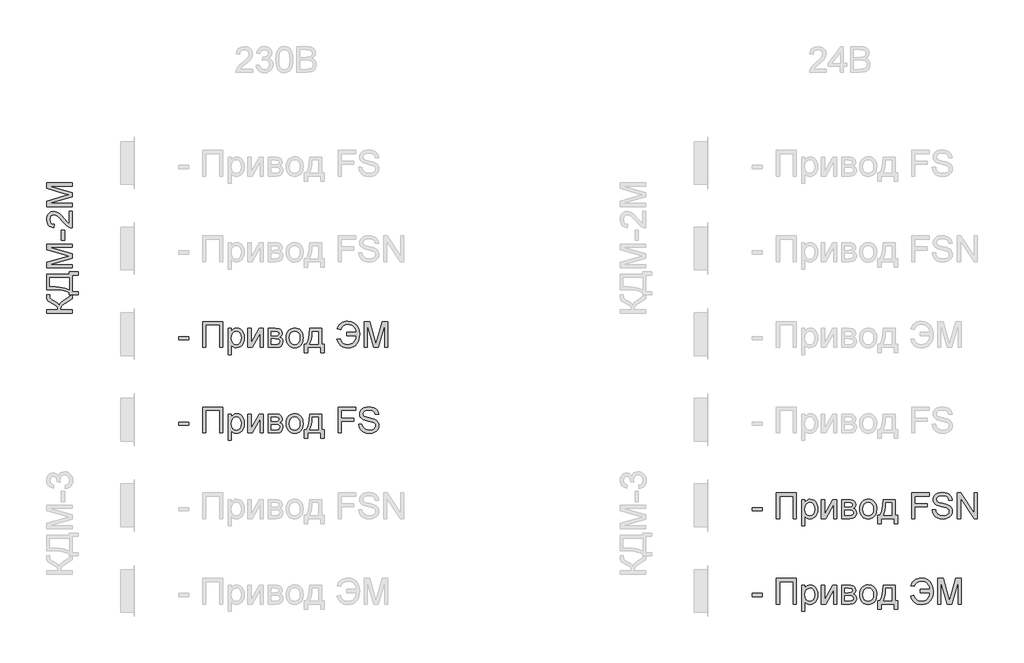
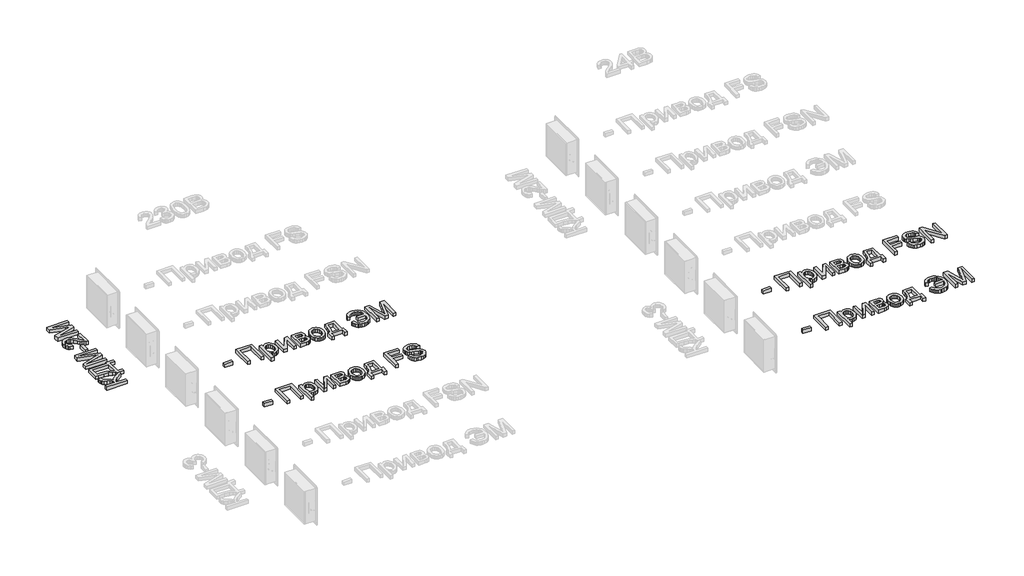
# One storey, part 19 of 23: 5 proxies.
"""IFC4 building model written with IfcOpenShell, lengths in millimetres."""

from ifc_helpers import new_model, si_unit, origin, origin_with_axes, place, context, project, spatial, polyline, outline, extrude, element, save

model = new_model("IFC4")

# Units and contexts
model_context = context("Model", 3, world=origin())
ifc_project = project(units=[si_unit("LENGTHUNIT", "METRE", prefix="MILLI")], contexts=[model_context])

# Site, building, storey
site = spatial("IfcSite", under=ifc_project)
building = spatial("IfcBuilding", under=site)
storey = spatial("IfcBuildingStorey", under=building, Name="Этаж 01", Elevation=0.0)

# Proxies
placement = place(None, origin())
element("IfcBuildingElementProxy", 1, Name="300 мм Arial", ObjectType="300 мм Arial", at=placement, inside=storey, context=model_context, shape_type="SweptSolid", body=[
    extrude(outline(polyline([(17804.7738082, -6434.3206311), (17804.7738082, -6396.6495148), (17922.4960467, -6396.6495148), (17922.4960467, -6434.3206311), (17804.7738082, -6434.3206311)])), origin_with_axes(), (0.0, 0.0, 1.0), 50.0),
    extrude(outline(polyline([(18087.3071805, -6222.4206019), (18322.7516574, -6222.4206019), (18322.7516574, -6523.7895324), (18285.0805411, -6523.7895324), (18285.0805411, -6260.0917182), (18124.9782968, -6260.0917182), (18124.9782968, -6523.7895324), (18087.3071805, -6523.7895324), (18087.3071805, -6222.4206019)])), origin_with_axes(), (0.0, 0.0, 1.0), 50.0),
    extrude(outline(polyline([(18383.9672214, -6608.5495441), (18383.9672214, -6302.4717241), (18421.6383378, -6302.4717241), (18421.6383378, -6339.4070764), (18433.9255964, -6321.1877206), (18447.684383, -6308.173895), (18463.724038, -6300.3655996), (18482.8539017, -6297.7628345), (18508.3297299, -6301.4048663), (18530.6049847, -6312.3309615), (18548.7415671, -6329.8789327), (18561.8013779, -6353.3865922), (18569.6924467, -6381.1432887), (18572.322803, -6411.438371), (18569.3521559, -6443.6556368), (18560.4402145, -6472.469994), (18545.8720875, -6496.4191119), (18525.9328834, -6514.0406595), (18502.7103324, -6524.8839813), (18478.292165, -6528.4984219), (18460.9741201, -6526.0795978), (18445.5138792, -6518.8231254), (18432.2793245, -6507.869439), (18421.6383378, -6494.3589728), (18421.6383378, -6608.5495441), (18383.9672214, -6608.5495441)]), holes=[polyline([(18421.6383378, -6414.8964618), (18425.7126308, -6448.668029), (18437.9355101, -6472.286053), (18455.970925, -6486.1919925), (18477.4828246, -6490.8273056), (18499.3442122, -6486.0264456), (18517.8394795, -6471.6238655), (18530.4486349, -6447.1413187), (18534.6516867, -6412.1005586), (18530.5498024, -6378.5129325), (18518.2441497, -6354.5638146), (18500.236326, -6340.2164168), (18479.027929, -6335.4339508), (18457.7367585, -6340.5199194), (18439.0391561, -6355.7778252), (18425.9885423, -6380.7294215), (18421.6383378, -6414.8964618)])]), origin_with_axes(), (0.0, 0.0, 1.0), 50.0),
    extrude(outline(polyline([(18614.7028088, -6302.4717241), (18652.3739251, -6302.4717241), (18652.3739251, -6471.2559835), (18744.9330351, -6302.4717241), (18793.6406113, -6302.4717241), (18793.6406113, -6523.7895324), (18755.969495, -6523.7895324), (18755.969495, -6356.0353426), (18663.9989962, -6523.7895324), (18614.7028088, -6523.7895324), (18614.7028088, -6302.4717241)])), origin_with_axes(), (0.0, 0.0, 1.0), 50.0),
    extrude(outline(polyline([(18850.1472857, -6302.4717241), (18933.1414638, -6302.4717241), (18959.8221055, -6303.7317199), (18978.6484666, -6307.5117074), (18992.4992238, -6314.6486181), (19004.2530535, -6325.9793836), (19012.2820781, -6340.7406486), (19014.9584196, -6358.1690581), (19013.3397388, -6372.2129533), (19008.4836965, -6384.325468), (19000.3718985, -6394.5617845), (18988.9859507, -6402.9770852), (19002.9286783, -6410.8037746), (19014.296232, -6423.3945359), (19021.856207, -6439.7560876), (19024.3761986, -6458.8951484), (19017.993446, -6487.6083381), (19002.8183137, -6507.8234538), (18978.7956194, -6519.7980127), (18945.8701809, -6523.7895324), (18850.1472857, -6523.7895324), (18850.1472857, -6302.4717241)]), holes=[polyline([(18887.818402, -6486.1184161), (18934.0243806, -6486.1184161), (18959.2059032, -6484.4169618), (18975.0064349, -6479.3125992), (18983.4861149, -6470.0327758), (18986.7050823, -6455.8049397), (18985.0955986, -6446.3779635), (18980.2671474, -6437.6683573), (18972.8543252, -6430.8533433), (18963.4917284, -6427.110144), (18930.3455607, -6424.9028521), (18887.818402, -6424.9028521), (18887.818402, -6486.1184161)]), polyline([(18887.818402, -6387.2317358), (18925.04806, -6387.2317358), (18955.7662065, -6385.3187494), (18970.7022156, -6377.6668039), (18975.6410313, -6371.3392336), (18977.2873033, -6363.8344409), (18974.3994296, -6352.5956459), (18965.7358086, -6345.3667647), (18950.0824297, -6341.4488215), (18926.2252823, -6340.1428404), (18887.818402, -6340.1428404), (18887.818402, -6387.2317358)])]), origin_with_axes(), (0.0, 0.0, 1.0), 50.0),
    extrude(outline(polyline([(19062.047315, -6413.1306282), (19064.0844615, -6384.4680223), (19070.1959011, -6359.7693448), (19080.3816339, -6339.0345959), (19094.6416597, -6322.2637754), (19108.9982546, -6311.5446138), (19124.8447715, -6303.8880698), (19142.1812106, -6299.2941433), (19161.0075717, -6297.7628345), (19181.7906051, -6299.6275364), (19200.5824773, -6305.221642), (19217.3831882, -6314.5451513), (19232.1927377, -6327.5980643), (19244.2799605, -6343.9389227), (19252.9136911, -6363.126268), (19258.0939294, -6385.1601003), (19259.8206756, -6410.0404195), (19256.767255, -6448.0978119), (19247.6069933, -6477.068519), (19232.606605, -6498.7643596), (19212.0328044, -6514.9971527), (19187.5962429, -6525.1231046), (19161.0075717, -6528.4984219), (19139.9210355, -6526.6406178), (19120.9544194, -6521.0672056), (19104.1077233, -6511.7781852), (19089.3809472, -6498.7735567), (19077.4224831, -6482.2740492), (19068.880723, -6462.500392), (19063.755667, -6439.452585), (19062.047315, -6413.1306282)]), holes=[polyline([(19099.7184313, -6413.0570518), (19104.0778329, -6447.1505157), (19117.1560378, -6471.4399245), (19136.8377246, -6485.9804603), (19161.0075717, -6490.8273056), (19185.0670541, -6485.9528692), (19204.7119527, -6471.3295599), (19217.7901576, -6446.7182544), (19222.1495593, -6411.8798294), (19217.7625665, -6378.7796469), (19204.6015881, -6354.821332), (19184.9290984, -6340.2807961), (19161.0075717, -6335.4339508), (19136.8377246, -6340.262402), (19117.1560378, -6354.7477556), (19104.0778329, -6378.981982), (19099.7184313, -6413.0570518)])]), origin_with_axes(), (0.0, 0.0, 1.0), 50.0),
    extrude(outline(polyline([(19335.1629082, -6302.4717241), (19476.4295943, -6302.4717241), (19476.4295943, -6486.1184161), (19504.6829316, -6486.1184161), (19504.6829316, -6585.0050964), (19467.0118152, -6585.0050964), (19467.0118152, -6523.7895324), (19311.6184605, -6523.7895324), (19311.6184605, -6585.0050964), (19273.9473442, -6585.0050964), (19273.9473442, -6486.1184161), (19297.4917919, -6486.1184161), (19314.6075017, -6455.1887373), (19326.5912577, -6414.2710624), (19333.4430598, -6363.3653913), (19335.1629082, -6302.4717241)]), holes=[polyline([(19368.1251349, -6340.1428404), (19365.0349262, -6386.2660455), (19359.2959671, -6425.9697099), (19350.9082576, -6459.2538334), (19339.8717977, -6486.1184161), (19438.758478, -6486.1184161), (19438.758478, -6340.1428404), (19368.1251349, -6340.1428404)])]), origin_with_axes(), (0.0, 0.0, 1.0), 50.0),
    extrude(outline(polyline([(19768.3807457, -6349.5606195), (19881.3940946, -6349.5606195), (19878.6947605, -6329.0121108), (19873.0983556, -6310.7030837), (19864.6048801, -6294.6335383), (19853.2143338, -6280.8034746), (19839.1520445, -6269.681942), (19822.64334, -6261.7379902), (19803.6882202, -6256.9716191), (19782.2866851, -6255.3828287), (19751.8674426, -6259.2088014), (19727.6378147, -6270.6867197), (19709.5978014, -6289.8165834), (19697.7474026, -6316.5983927), (19660.0762863, -6307.1806136), (19666.8637091, -6287.2873947), (19676.1895177, -6269.6934383), (19688.053712, -6254.3987444), (19702.4562922, -6241.4033129), (19719.0799598, -6231.0382377), (19737.6074168, -6223.6346125), (19758.0386631, -6219.1924374), (19780.3736987, -6217.7117124), (19821.4477235, -6223.1471689), (19856.3781189, -6239.4535383), (19884.1256184, -6264.2119966), (19903.6509553, -6295.0037196), (19915.211647, -6330.6054997), (19919.0652109, -6369.7941292), (19917.8925871, -6402.0136942), (19912.0938471, -6431.5707132), (19901.6689911, -6458.4651863), (19886.6180189, -6482.6971135), (19866.9777189, -6502.7351859), (19842.7848792, -6517.0480948), (19814.0394998, -6525.6358401), (19780.7415807, -6528.4984219), (19757.0545788, -6526.9533175), (19735.6576422, -6522.3180044), (19716.5507711, -6514.5924825), (19699.7339654, -6503.7767518), (19685.2072251, -6489.8708124), (19672.9705502, -6472.8746642), (19663.0239408, -6452.7883073), (19655.3673968, -6429.6117416), (19693.0385131, -6420.1939625), (19705.7672301, -6451.0960501), (19725.3385523, -6473.1689698), (19751.7524795, -6486.4127217), (19785.0090119, -6490.8273056), (19804.7182898, -6489.0936617), (19822.5697636, -6483.89273), (19838.5634333, -6475.2245105), (19852.699299, -6463.0890032), (19864.3979464, -6447.9460605), (19873.0799615, -6430.2555351), (19878.7453442, -6410.0174268), (19881.3940946, -6387.2317358), (19768.3807457, -6387.2317358), (19768.3807457, -6349.5606195)])), origin_with_axes(), (0.0, 0.0, 1.0), 50.0),
    extrude(outline(polyline([(19970.8629958, -6523.7895324), (19970.8629958, -6222.4206019), (20035.6838034, -6222.4206019), (20097.3408258, -6434.8356659), (20109.7752372, -6479.2022346), (20123.2397182, -6431.156846), (20183.866671, -6222.4206019), (20248.6874786, -6222.4206019), (20248.6874786, -6523.7895324), (20211.0163623, -6523.7895324), (20211.0163623, -6260.0917182), (20135.3062477, -6523.7895324), (20084.2442268, -6523.7895324), (20008.5341121, -6260.0917182), (20008.5341121, -6523.7895324), (19970.8629958, -6523.7895324)])), origin_with_axes(), (0.0, 0.0, 1.0), 50.0),
])
element("IfcBuildingElementProxy", 2, Name="300 мм Arial", ObjectType="300 мм Arial", at=placement, inside=storey, context=model_context, shape_type="SweptSolid", body=[
    extrude(outline(polyline([(17804.7738082, -7434.3206311), (17804.7738082, -7396.6495148), (17922.4960467, -7396.6495148), (17922.4960467, -7434.3206311), (17804.7738082, -7434.3206311)])), origin_with_axes(), (0.0, 0.0, 1.0), 50.0),
    extrude(outline(polyline([(18087.3071805, -7222.4206019), (18322.7516574, -7222.4206019), (18322.7516574, -7523.7895324), (18285.0805411, -7523.7895324), (18285.0805411, -7260.0917182), (18124.9782968, -7260.0917182), (18124.9782968, -7523.7895324), (18087.3071805, -7523.7895324), (18087.3071805, -7222.4206019)])), origin_with_axes(), (0.0, 0.0, 1.0), 50.0),
    extrude(outline(polyline([(18383.9672214, -7608.5495441), (18383.9672214, -7302.4717241), (18421.6383378, -7302.4717241), (18421.6383378, -7339.4070764), (18433.9255964, -7321.1877206), (18447.684383, -7308.173895), (18463.724038, -7300.3655996), (18482.8539017, -7297.7628345), (18508.3297299, -7301.4048663), (18530.6049847, -7312.3309615), (18548.7415671, -7329.8789327), (18561.8013779, -7353.3865922), (18569.6924467, -7381.1432887), (18572.322803, -7411.438371), (18569.3521559, -7443.6556368), (18560.4402145, -7472.469994), (18545.8720875, -7496.4191119), (18525.9328834, -7514.0406595), (18502.7103324, -7524.8839813), (18478.292165, -7528.4984219), (18460.9741201, -7526.0795978), (18445.5138792, -7518.8231254), (18432.2793245, -7507.869439), (18421.6383378, -7494.3589728), (18421.6383378, -7608.5495441), (18383.9672214, -7608.5495441)]), holes=[polyline([(18421.6383378, -7414.8964618), (18425.7126308, -7448.668029), (18437.9355101, -7472.286053), (18455.970925, -7486.1919925), (18477.4828246, -7490.8273056), (18499.3442122, -7486.0264456), (18517.8394795, -7471.6238655), (18530.4486349, -7447.1413187), (18534.6516867, -7412.1005586), (18530.5498024, -7378.5129325), (18518.2441497, -7354.5638146), (18500.236326, -7340.2164168), (18479.027929, -7335.4339508), (18457.7367585, -7340.5199194), (18439.0391561, -7355.7778252), (18425.9885423, -7380.7294215), (18421.6383378, -7414.8964618)])]), origin_with_axes(), (0.0, 0.0, 1.0), 50.0),
    extrude(outline(polyline([(18614.7028088, -7302.4717241), (18652.3739251, -7302.4717241), (18652.3739251, -7471.2559835), (18744.9330351, -7302.4717241), (18793.6406113, -7302.4717241), (18793.6406113, -7523.7895324), (18755.969495, -7523.7895324), (18755.969495, -7356.0353426), (18663.9989962, -7523.7895324), (18614.7028088, -7523.7895324), (18614.7028088, -7302.4717241)])), origin_with_axes(), (0.0, 0.0, 1.0), 50.0),
    extrude(outline(polyline([(18850.1472857, -7302.4717241), (18933.1414638, -7302.4717241), (18959.8221055, -7303.7317199), (18978.6484666, -7307.5117074), (18992.4992238, -7314.6486181), (19004.2530535, -7325.9793836), (19012.2820781, -7340.7406486), (19014.9584196, -7358.1690581), (19013.3397388, -7372.2129533), (19008.4836965, -7384.325468), (19000.3718985, -7394.5617845), (18988.9859507, -7402.9770852), (19002.9286783, -7410.8037746), (19014.296232, -7423.3945359), (19021.856207, -7439.7560876), (19024.3761986, -7458.8951484), (19017.993446, -7487.6083381), (19002.8183137, -7507.8234538), (18978.7956194, -7519.7980127), (18945.8701809, -7523.7895324), (18850.1472857, -7523.7895324), (18850.1472857, -7302.4717241)]), holes=[polyline([(18887.818402, -7486.1184161), (18934.0243806, -7486.1184161), (18959.2059032, -7484.4169618), (18975.0064349, -7479.3125992), (18983.4861149, -7470.0327758), (18986.7050823, -7455.8049397), (18985.0955986, -7446.3779635), (18980.2671474, -7437.6683573), (18972.8543252, -7430.8533433), (18963.4917284, -7427.110144), (18930.3455607, -7424.9028521), (18887.818402, -7424.9028521), (18887.818402, -7486.1184161)]), polyline([(18887.818402, -7387.2317358), (18925.04806, -7387.2317358), (18955.7662065, -7385.3187494), (18970.7022156, -7377.6668039), (18975.6410313, -7371.3392336), (18977.2873033, -7363.8344409), (18974.3994296, -7352.5956459), (18965.7358086, -7345.3667647), (18950.0824297, -7341.4488215), (18926.2252823, -7340.1428404), (18887.818402, -7340.1428404), (18887.818402, -7387.2317358)])]), origin_with_axes(), (0.0, 0.0, 1.0), 50.0),
    extrude(outline(polyline([(19062.047315, -7413.1306282), (19064.0844615, -7384.4680223), (19070.1959011, -7359.7693448), (19080.3816339, -7339.0345959), (19094.6416597, -7322.2637754), (19108.9982546, -7311.5446138), (19124.8447715, -7303.8880698), (19142.1812106, -7299.2941433), (19161.0075717, -7297.7628345), (19181.7906051, -7299.6275364), (19200.5824773, -7305.221642), (19217.3831882, -7314.5451513), (19232.1927377, -7327.5980643), (19244.2799605, -7343.9389227), (19252.9136911, -7363.126268), (19258.0939294, -7385.1601003), (19259.8206756, -7410.0404195), (19256.767255, -7448.0978119), (19247.6069933, -7477.068519), (19232.606605, -7498.7643596), (19212.0328044, -7514.9971527), (19187.5962429, -7525.1231046), (19161.0075717, -7528.4984219), (19139.9210355, -7526.6406178), (19120.9544194, -7521.0672056), (19104.1077233, -7511.7781852), (19089.3809472, -7498.7735567), (19077.4224831, -7482.2740492), (19068.880723, -7462.500392), (19063.755667, -7439.452585), (19062.047315, -7413.1306282)]), holes=[polyline([(19099.7184313, -7413.0570518), (19104.0778329, -7447.1505157), (19117.1560378, -7471.4399245), (19136.8377246, -7485.9804603), (19161.0075717, -7490.8273056), (19185.0670541, -7485.9528692), (19204.7119527, -7471.3295599), (19217.7901576, -7446.7182544), (19222.1495593, -7411.8798294), (19217.7625665, -7378.7796469), (19204.6015881, -7354.821332), (19184.9290984, -7340.2807961), (19161.0075717, -7335.4339508), (19136.8377246, -7340.262402), (19117.1560378, -7354.7477556), (19104.0778329, -7378.981982), (19099.7184313, -7413.0570518)])]), origin_with_axes(), (0.0, 0.0, 1.0), 50.0),
    extrude(outline(polyline([(19335.1629082, -7302.4717241), (19476.4295943, -7302.4717241), (19476.4295943, -7486.1184161), (19504.6829316, -7486.1184161), (19504.6829316, -7585.0050964), (19467.0118152, -7585.0050964), (19467.0118152, -7523.7895324), (19311.6184605, -7523.7895324), (19311.6184605, -7585.0050964), (19273.9473442, -7585.0050964), (19273.9473442, -7486.1184161), (19297.4917919, -7486.1184161), (19314.6075017, -7455.1887373), (19326.5912577, -7414.2710624), (19333.4430598, -7363.3653913), (19335.1629082, -7302.4717241)]), holes=[polyline([(19368.1251349, -7340.1428404), (19365.0349262, -7386.2660455), (19359.2959671, -7425.9697099), (19350.9082576, -7459.2538334), (19339.8717977, -7486.1184161), (19438.758478, -7486.1184161), (19438.758478, -7340.1428404), (19368.1251349, -7340.1428404)])]), origin_with_axes(), (0.0, 0.0, 1.0), 50.0),
    extrude(outline(polyline([(19669.4940654, -7523.7895324), (19669.4940654, -7222.4206019), (19871.9763155, -7222.4206019), (19871.9763155, -7260.0917182), (19707.1651817, -7260.0917182), (19707.1651817, -7349.5606195), (19848.4318678, -7349.5606195), (19848.4318678, -7387.2317358), (19707.1651817, -7387.2317358), (19707.1651817, -7523.7895324), (19669.4940654, -7523.7895324)])), origin_with_axes(), (0.0, 0.0, 1.0), 50.0),
    extrude(outline(polyline([(19909.6474318, -7420.1939625), (19947.3185481, -7420.1939625), (19951.6411616, -7441.0988569), (19959.458654, -7457.901867), (19971.6539421, -7471.2375894), (19989.1099428, -7481.7406203), (20010.4470985, -7488.5556343), (20034.2858518, -7490.8273056), (20055.2735196, -7489.1074573), (20073.6492253, -7483.9479123), (20088.539249, -7475.780932), (20099.0698712, -7465.0387777), (20105.3330621, -7452.7055339), (20107.4207924, -7439.7652847), (20105.857294, -7427.1561293), (20101.1667985, -7416.2576252), (20091.6386549, -7406.9594078), (20075.5622117, -7399.1511124), (20020.7110062, -7384.7669264), (19984.7045559, -7375.2479798), (19961.665946, -7366.1888856), (19942.9131613, -7353.5153509), (19929.6234242, -7338.1562776), (19921.7047642, -7320.4427595), (19919.0652109, -7300.7058905), (19922.3301636, -7278.6421678), (19932.1250217, -7258.0683673), (19948.1922679, -7240.6307607), (19970.2743846, -7227.97562), (19996.7802824, -7220.2776893), (20026.1188715, -7217.7117124), (20057.9038759, -7220.3972509), (20085.7157547, -7228.4538666), (20108.5612266, -7241.7160126), (20125.4470102, -7260.0181418), (20136.1339822, -7282.2198202), (20140.3830192, -7307.1806136), (20102.7119029, -7307.1806136), (20095.7957214, -7284.7030237), (20081.3747472, -7268.4794277), (20058.841975, -7258.6569784), (20027.5903995, -7255.3828287), (19995.60306, -7258.6201902), (19973.658899, -7268.3322749), (19960.9669702, -7282.6244904), (19956.7363272, -7299.6022445), (19959.7345655, -7314.078401), (19968.7292803, -7325.7218662), (19989.9928596, -7336.1329266), (20030.2391499, -7346.7647163), (20071.7730271, -7356.8630771), (20096.8993674, -7365.6738508), (20118.3744789, -7379.340667), (20133.3564731, -7396.2080564), (20142.1580498, -7416.0920783), (20145.0919088, -7438.8087915), (20141.7165914, -7462.0313424), (20131.5906395, -7483.8743359), (20115.1279202, -7502.6731058), (20092.7423008, -7516.7629863), (20065.8225358, -7525.564563), (20035.7573798, -7528.4984219), (19998.8496186, -7525.3346367), (19968.4717629, -7515.8432813), (19944.2743246, -7499.9875673), (19925.907816, -7477.7307066), (19914.1171981, -7450.6178035), (19909.6474318, -7420.1939625)])), origin_with_axes(), (0.0, 0.0, 1.0), 50.0),
])
element("IfcBuildingElementProxy", 3, Name="300 мм Arial", ObjectType="300 мм Arial", at=placement, inside=storey, context=model_context, shape_type="SweptSolid", body=[
    extrude(outline(polyline([(16262.355345, -6122.4984014), (16262.355345, -6084.8272851), (16394.2042521, -6084.8272851), (16391.7118516, -6059.3238658), (16384.23465, -6042.7047967), (16366.6406936, -6029.2679068), (16333.7980285, -6013.3110252), (16291.6755401, -5992.5256925), (16280.2620012, -5982.5009082), (16270.8166309, -5968.9812448), (16264.4706665, -5952.9323928), (16262.355345, -5935.3200423), (16262.7968034, -5910.5983722), (16300.4679197, -5910.5983722), (16300.2471905, -5918.9125053), (16300.0264613, -5927.2266384), (16302.2889356, -5944.4803039), (16309.0763584, -5956.657198), (16323.3317857, -5967.1418349), (16347.8511207, -5979.0244233), (16378.3853263, -5993.6017474), (16395.0871689, -6005.6958679), (16410.6853655, -6031.705125), (16416.8933742, -6017.1140054), (16427.7183019, -6002.6240533), (16463.2189144, -5973.9476518), (16563.7242755, -5910.5983722), (16563.7242755, -5954.3027532), (16478.817111, -6007.8663717), (16451.5846463, -6028.5505369), (16434.4873306, -6045.5742762), (16425.4650246, -6062.9842916), (16422.4575893, -6084.8272851), (16563.7242755, -6084.8272851), (16563.7242755, -6122.4984014), (16262.355345, -6122.4984014)])), origin_with_axes(), (0.0, 0.0, 1.0), 50.0),
    extrude(outline(polyline([(16262.355345, -5849.3828082), (16262.355345, -5670.4450057), (16526.0531592, -5670.4450057), (16526.0531592, -5642.1916685), (16634.3576186, -5642.1916685), (16634.3576186, -5679.8627848), (16563.7242755, -5679.8627848), (16563.7242755, -5872.9272559), (16634.3576186, -5872.9272559), (16634.3576186, -5910.5983722), (16563.7242755, -5910.5983722), (16526.0531592, -5910.5983722), (16526.0531592, -5887.0539245), (16491.8815204, -5870.5728111), (16443.8131392, -5858.8005873), (16381.8480156, -5851.737253), (16305.9861497, -5849.3828082), (16262.355345, -5849.3828082)]), holes=[polyline([(16300.0264613, -5708.116122), (16300.0264613, -5811.7116919), (16315.1831995, -5811.7116919), (16418.4108874, -5819.3636374), (16478.0629529, -5830.6944028), (16526.0531592, -5849.3828082), (16526.0531592, -5708.116122), (16300.0264613, -5708.116122)])]), origin_with_axes(), (0.0, 0.0, 1.0), 50.0),
    extrude(outline(polyline([(16563.7242755, -5595.1027731), (16262.355345, -5595.1027731), (16262.355345, -5530.2819656), (16474.7704091, -5468.6249432), (16519.1369777, -5456.1905318), (16471.0915891, -5442.7260507), (16262.355345, -5382.0990979), (16262.355345, -5317.2782904), (16563.7242755, -5317.2782904), (16563.7242755, -5354.9494067), (16300.0264613, -5354.9494067), (16563.7242755, -5430.6595213), (16563.7242755, -5481.7215422), (16300.0264613, -5557.4316568), (16563.7242755, -5557.4316568), (16563.7242755, -5595.1027731)])), origin_with_axes(), (0.0, 0.0, 1.0), 50.0),
    extrude(outline(polyline([(16474.2553743, -5274.8982845), (16436.584258, -5274.8982845), (16436.584258, -5157.1760461), (16474.2553743, -5157.1760461), (16474.2553743, -5274.8982845)])), origin_with_axes(), (0.0, 0.0, 1.0), 50.0),
    extrude(outline(polyline([(16526.0531592, -4931.1493482), (16563.7242755, -4931.1493482), (16563.7242755, -5128.9227088), (16537.7518066, -5124.8760069), (16517.4539175, -5115.5869865), (16497.7630338, -5101.9937468), (16477.152445, -5082.3304542), (16454.0954409, -5054.831275), (16417.9878231, -5014.1803145), (16391.3347725, -4989.7897383), (16369.7033112, -4977.5944501), (16348.6604611, -4973.5293541), (16329.7973118, -4977.3645239), (16314.1163418, -4988.8700333), (16303.5489314, -5006.5559602), (16300.0264613, -5028.9323826), (16303.466158, -5052.430845), (16313.785248, -5070.686989), (16330.1743908, -5082.4684099), (16351.8242463, -5086.542703), (16347.1153567, -5124.2138193), (16310.6766451, -5115.0811488), (16296.1407078, -5106.5347902), (16284.0603828, -5095.3350827), (16274.5644288, -5081.7395437), (16267.7816045, -5066.0056906), (16262.355345, -5028.1230422), (16263.8636612, -5007.9332184), (16268.3886098, -4989.9644822), (16275.9301907, -4974.2168336), (16286.4884039, -4960.6902724), (16299.2815003, -4949.8262573), (16313.5277306, -4942.0662464), (16329.2270947, -4937.4102399), (16346.3795927, -4935.8582378), (16364.3966134, -4937.5321009), (16382.1009345, -4942.5536901), (16400.1087581, -4951.4656314), (16419.0362868, -4964.8105508), (16441.6334383, -4986.0833272), (16470.6501307, -5018.7788395), (16506.8865072, -5062.1153385), (16526.0531592, -5079.1114867), (16526.0531592, -4931.1493482)])), origin_with_axes(), (0.0, 0.0, 1.0), 50.0),
    extrude(outline(polyline([(16563.7242755, -4879.3515633), (16262.355345, -4879.3515633), (16262.355345, -4814.5307558), (16474.7704091, -4752.8737334), (16519.1369777, -4740.4393219), (16471.0915891, -4726.9748409), (16262.355345, -4666.3478881), (16262.355345, -4601.5270806), (16563.7242755, -4601.5270806), (16563.7242755, -4639.1981969), (16300.0264613, -4639.1981969), (16563.7242755, -4714.9083115), (16563.7242755, -4765.9703324), (16300.0264613, -4841.680447), (16563.7242755, -4841.680447), (16563.7242755, -4879.3515633)])), origin_with_axes(), (0.0, 0.0, 1.0), 50.0),
])
element("IfcBuildingElementProxy", 4, Name="300 мм Arial", ObjectType="300 мм Arial", at=placement, inside=storey, context=model_context, shape_type="SweptSolid", body=[
    extrude(outline(polyline([(24504.7738082, -8434.3206311), (24504.7738082, -8396.6495148), (24622.4960467, -8396.6495148), (24622.4960467, -8434.3206311), (24504.7738082, -8434.3206311)])), origin_with_axes(), (0.0, 0.0, 1.0), 50.0),
    extrude(outline(polyline([(24787.3071805, -8222.4206019), (25022.7516574, -8222.4206019), (25022.7516574, -8523.7895324), (24985.0805411, -8523.7895324), (24985.0805411, -8260.0917182), (24824.9782968, -8260.0917182), (24824.9782968, -8523.7895324), (24787.3071805, -8523.7895324), (24787.3071805, -8222.4206019)])), origin_with_axes(), (0.0, 0.0, 1.0), 50.0),
    extrude(outline(polyline([(25083.9672214, -8608.5495441), (25083.9672214, -8302.4717241), (25121.6383378, -8302.4717241), (25121.6383378, -8339.4070764), (25133.9255964, -8321.1877206), (25147.684383, -8308.173895), (25163.724038, -8300.3655996), (25182.8539017, -8297.7628345), (25208.3297299, -8301.4048663), (25230.6049847, -8312.3309615), (25248.7415671, -8329.8789327), (25261.8013779, -8353.3865922), (25269.6924467, -8381.1432887), (25272.322803, -8411.438371), (25269.3521559, -8443.6556368), (25260.4402145, -8472.469994), (25245.8720875, -8496.4191119), (25225.9328834, -8514.0406595), (25202.7103324, -8524.8839813), (25178.292165, -8528.4984219), (25160.9741201, -8526.0795978), (25145.5138792, -8518.8231254), (25132.2793245, -8507.869439), (25121.6383378, -8494.3589728), (25121.6383378, -8608.5495441), (25083.9672214, -8608.5495441)]), holes=[polyline([(25121.6383378, -8414.8964618), (25125.7126308, -8448.668029), (25137.9355101, -8472.286053), (25155.970925, -8486.1919925), (25177.4828246, -8490.8273056), (25199.3442122, -8486.0264456), (25217.8394795, -8471.6238655), (25230.4486349, -8447.1413187), (25234.6516867, -8412.1005586), (25230.5498024, -8378.5129325), (25218.2441497, -8354.5638146), (25200.236326, -8340.2164168), (25179.027929, -8335.4339508), (25157.7367585, -8340.5199194), (25139.0391561, -8355.7778252), (25125.9885423, -8380.7294215), (25121.6383378, -8414.8964618)])]), origin_with_axes(), (0.0, 0.0, 1.0), 50.0),
    extrude(outline(polyline([(25314.7028088, -8302.4717241), (25352.3739251, -8302.4717241), (25352.3739251, -8471.2559835), (25444.9330351, -8302.4717241), (25493.6406113, -8302.4717241), (25493.6406113, -8523.7895324), (25455.969495, -8523.7895324), (25455.969495, -8356.0353426), (25363.9989962, -8523.7895324), (25314.7028088, -8523.7895324), (25314.7028088, -8302.4717241)])), origin_with_axes(), (0.0, 0.0, 1.0), 50.0),
    extrude(outline(polyline([(25550.1472857, -8302.4717241), (25633.1414638, -8302.4717241), (25659.8221055, -8303.7317199), (25678.6484666, -8307.5117074), (25692.4992238, -8314.6486181), (25704.2530535, -8325.9793836), (25712.2820781, -8340.7406486), (25714.9584196, -8358.1690581), (25713.3397388, -8372.2129533), (25708.4836965, -8384.325468), (25700.3718985, -8394.5617845), (25688.9859507, -8402.9770852), (25702.9286783, -8410.8037746), (25714.296232, -8423.3945359), (25721.856207, -8439.7560876), (25724.3761986, -8458.8951484), (25717.993446, -8487.6083381), (25702.8183137, -8507.8234538), (25678.7956194, -8519.7980127), (25645.8701809, -8523.7895324), (25550.1472857, -8523.7895324), (25550.1472857, -8302.4717241)]), holes=[polyline([(25587.818402, -8486.1184161), (25634.0243806, -8486.1184161), (25659.2059032, -8484.4169618), (25675.0064349, -8479.3125992), (25683.4861149, -8470.0327758), (25686.7050823, -8455.8049397), (25685.0955986, -8446.3779635), (25680.2671474, -8437.6683573), (25672.8543252, -8430.8533433), (25663.4917284, -8427.110144), (25630.3455607, -8424.9028521), (25587.818402, -8424.9028521), (25587.818402, -8486.1184161)]), polyline([(25587.818402, -8387.2317358), (25625.04806, -8387.2317358), (25655.7662065, -8385.3187494), (25670.7022156, -8377.6668039), (25675.6410313, -8371.3392336), (25677.2873033, -8363.8344409), (25674.3994296, -8352.5956459), (25665.7358086, -8345.3667647), (25650.0824297, -8341.4488215), (25626.2252823, -8340.1428404), (25587.818402, -8340.1428404), (25587.818402, -8387.2317358)])]), origin_with_axes(), (0.0, 0.0, 1.0), 50.0),
    extrude(outline(polyline([(25762.047315, -8413.1306282), (25764.0844615, -8384.4680223), (25770.1959011, -8359.7693448), (25780.3816339, -8339.0345959), (25794.6416597, -8322.2637754), (25808.9982546, -8311.5446138), (25824.8447715, -8303.8880698), (25842.1812106, -8299.2941433), (25861.0075717, -8297.7628345), (25881.7906051, -8299.6275364), (25900.5824773, -8305.221642), (25917.3831882, -8314.5451513), (25932.1927377, -8327.5980643), (25944.2799605, -8343.9389227), (25952.9136911, -8363.126268), (25958.0939294, -8385.1601003), (25959.8206756, -8410.0404195), (25956.767255, -8448.0978119), (25947.6069933, -8477.068519), (25932.606605, -8498.7643596), (25912.0328044, -8514.9971527), (25887.5962429, -8525.1231046), (25861.0075717, -8528.4984219), (25839.9210355, -8526.6406178), (25820.9544194, -8521.0672056), (25804.1077233, -8511.7781852), (25789.3809472, -8498.7735567), (25777.4224831, -8482.2740492), (25768.880723, -8462.500392), (25763.755667, -8439.452585), (25762.047315, -8413.1306282)]), holes=[polyline([(25799.7184313, -8413.0570518), (25804.0778329, -8447.1505157), (25817.1560378, -8471.4399245), (25836.8377246, -8485.9804603), (25861.0075717, -8490.8273056), (25885.0670541, -8485.9528692), (25904.7119527, -8471.3295599), (25917.7901576, -8446.7182544), (25922.1495593, -8411.8798294), (25917.7625665, -8378.7796469), (25904.6015881, -8354.821332), (25884.9290984, -8340.2807961), (25861.0075717, -8335.4339508), (25836.8377246, -8340.262402), (25817.1560378, -8354.7477556), (25804.0778329, -8378.981982), (25799.7184313, -8413.0570518)])]), origin_with_axes(), (0.0, 0.0, 1.0), 50.0),
    extrude(outline(polyline([(26035.1629082, -8302.4717241), (26176.4295943, -8302.4717241), (26176.4295943, -8486.1184161), (26204.6829316, -8486.1184161), (26204.6829316, -8585.0050964), (26167.0118152, -8585.0050964), (26167.0118152, -8523.7895324), (26011.6184605, -8523.7895324), (26011.6184605, -8585.0050964), (25973.9473442, -8585.0050964), (25973.9473442, -8486.1184161), (25997.4917919, -8486.1184161), (26014.6075017, -8455.1887373), (26026.5912577, -8414.2710624), (26033.4430598, -8363.3653913), (26035.1629082, -8302.4717241)]), holes=[polyline([(26068.1251349, -8340.1428404), (26065.0349262, -8386.2660455), (26059.2959671, -8425.9697099), (26050.9082576, -8459.2538334), (26039.8717977, -8486.1184161), (26138.758478, -8486.1184161), (26138.758478, -8340.1428404), (26068.1251349, -8340.1428404)])]), origin_with_axes(), (0.0, 0.0, 1.0), 50.0),
    extrude(outline(polyline([(26369.4940654, -8523.7895324), (26369.4940654, -8222.4206019), (26571.9763155, -8222.4206019), (26571.9763155, -8260.0917182), (26407.1651817, -8260.0917182), (26407.1651817, -8349.5606195), (26548.4318678, -8349.5606195), (26548.4318678, -8387.2317358), (26407.1651817, -8387.2317358), (26407.1651817, -8523.7895324), (26369.4940654, -8523.7895324)])), origin_with_axes(), (0.0, 0.0, 1.0), 50.0),
    extrude(outline(polyline([(26609.6474318, -8420.1939625), (26647.3185481, -8420.1939625), (26651.6411616, -8441.0988569), (26659.458654, -8457.901867), (26671.6539421, -8471.2375894), (26689.1099428, -8481.7406203), (26710.4470985, -8488.5556343), (26734.2858518, -8490.8273056), (26755.2735196, -8489.1074573), (26773.6492253, -8483.9479123), (26788.539249, -8475.780932), (26799.0698712, -8465.0387777), (26805.3330621, -8452.7055339), (26807.4207924, -8439.7652847), (26805.857294, -8427.1561293), (26801.1667985, -8416.2576252), (26791.6386549, -8406.9594078), (26775.5622117, -8399.1511124), (26720.7110062, -8384.7669264), (26684.7045559, -8375.2479798), (26661.665946, -8366.1888856), (26642.9131613, -8353.5153509), (26629.6234242, -8338.1562776), (26621.7047642, -8320.4427595), (26619.0652109, -8300.7058905), (26622.3301636, -8278.6421678), (26632.1250217, -8258.0683673), (26648.1922679, -8240.6307607), (26670.2743846, -8227.97562), (26696.7802824, -8220.2776893), (26726.1188715, -8217.7117124), (26757.9038759, -8220.3972509), (26785.7157547, -8228.4538666), (26808.5612266, -8241.7160126), (26825.4470102, -8260.0181418), (26836.1339822, -8282.2198202), (26840.3830192, -8307.1806136), (26802.7119029, -8307.1806136), (26795.7957214, -8284.7030237), (26781.3747472, -8268.4794277), (26758.841975, -8258.6569784), (26727.5903995, -8255.3828287), (26695.60306, -8258.6201902), (26673.658899, -8268.3322749), (26660.9669702, -8282.6244904), (26656.7363272, -8299.6022445), (26659.7345655, -8314.078401), (26668.7292803, -8325.7218662), (26689.9928596, -8336.1329266), (26730.2391499, -8346.7647163), (26771.7730271, -8356.8630771), (26796.8993674, -8365.6738508), (26818.3744789, -8379.340667), (26833.3564731, -8396.2080564), (26842.1580498, -8416.0920783), (26845.0919088, -8438.8087915), (26841.7165914, -8462.0313424), (26831.5906395, -8483.8743359), (26815.1279202, -8502.6731058), (26792.7423008, -8516.7629863), (26765.8225358, -8525.564563), (26735.7573798, -8528.4984219), (26698.8496186, -8525.3346367), (26668.4717629, -8515.8432813), (26644.2743246, -8499.9875673), (26625.907816, -8477.7307066), (26614.1171981, -8450.6178035), (26609.6474318, -8420.1939625)])), origin_with_axes(), (0.0, 0.0, 1.0), 50.0),
    extrude(outline(polyline([(26901.5985832, -8523.7895324), (26901.5985832, -8222.4206019), (26941.9184499, -8222.4206019), (27099.3719438, -8461.1760168), (27099.3719438, -8222.4206019), (27137.0430601, -8222.4206019), (27137.0430601, -8523.7895324), (27096.7231935, -8523.7895324), (26939.2696995, -8284.9605411), (26939.2696995, -8523.7895324), (26901.5985832, -8523.7895324)])), origin_with_axes(), (0.0, 0.0, 1.0), 50.0),
])
element("IfcBuildingElementProxy", 5, Name="300 мм Arial", ObjectType="300 мм Arial", at=placement, inside=storey, context=model_context, shape_type="SweptSolid", body=[
    extrude(outline(polyline([(24504.7738082, -9434.3206311), (24504.7738082, -9396.6495148), (24622.4960467, -9396.6495148), (24622.4960467, -9434.3206311), (24504.7738082, -9434.3206311)])), origin_with_axes(), (0.0, 0.0, 1.0), 50.0),
    extrude(outline(polyline([(24787.3071805, -9222.4206019), (25022.7516574, -9222.4206019), (25022.7516574, -9523.7895324), (24985.0805411, -9523.7895324), (24985.0805411, -9260.0917182), (24824.9782968, -9260.0917182), (24824.9782968, -9523.7895324), (24787.3071805, -9523.7895324), (24787.3071805, -9222.4206019)])), origin_with_axes(), (0.0, 0.0, 1.0), 50.0),
    extrude(outline(polyline([(25083.9672214, -9608.5495441), (25083.9672214, -9302.4717241), (25121.6383378, -9302.4717241), (25121.6383378, -9339.4070764), (25133.9255964, -9321.1877206), (25147.684383, -9308.173895), (25163.724038, -9300.3655996), (25182.8539017, -9297.7628345), (25208.3297299, -9301.4048663), (25230.6049847, -9312.3309615), (25248.7415671, -9329.8789327), (25261.8013779, -9353.3865922), (25269.6924467, -9381.1432887), (25272.322803, -9411.438371), (25269.3521559, -9443.6556368), (25260.4402145, -9472.469994), (25245.8720875, -9496.4191119), (25225.9328834, -9514.0406595), (25202.7103324, -9524.8839813), (25178.292165, -9528.4984219), (25160.9741201, -9526.0795978), (25145.5138792, -9518.8231254), (25132.2793245, -9507.869439), (25121.6383378, -9494.3589728), (25121.6383378, -9608.5495441), (25083.9672214, -9608.5495441)]), holes=[polyline([(25121.6383378, -9414.8964618), (25125.7126308, -9448.668029), (25137.9355101, -9472.286053), (25155.970925, -9486.1919925), (25177.4828246, -9490.8273056), (25199.3442122, -9486.0264456), (25217.8394795, -9471.6238655), (25230.4486349, -9447.1413187), (25234.6516867, -9412.1005586), (25230.5498024, -9378.5129325), (25218.2441497, -9354.5638146), (25200.236326, -9340.2164168), (25179.027929, -9335.4339508), (25157.7367585, -9340.5199194), (25139.0391561, -9355.7778252), (25125.9885423, -9380.7294215), (25121.6383378, -9414.8964618)])]), origin_with_axes(), (0.0, 0.0, 1.0), 50.0),
    extrude(outline(polyline([(25314.7028088, -9302.4717241), (25352.3739251, -9302.4717241), (25352.3739251, -9471.2559835), (25444.9330351, -9302.4717241), (25493.6406113, -9302.4717241), (25493.6406113, -9523.7895324), (25455.969495, -9523.7895324), (25455.969495, -9356.0353426), (25363.9989962, -9523.7895324), (25314.7028088, -9523.7895324), (25314.7028088, -9302.4717241)])), origin_with_axes(), (0.0, 0.0, 1.0), 50.0),
    extrude(outline(polyline([(25550.1472857, -9302.4717241), (25633.1414638, -9302.4717241), (25659.8221055, -9303.7317199), (25678.6484666, -9307.5117074), (25692.4992238, -9314.6486181), (25704.2530535, -9325.9793836), (25712.2820781, -9340.7406486), (25714.9584196, -9358.1690581), (25713.3397388, -9372.2129533), (25708.4836965, -9384.325468), (25700.3718985, -9394.5617845), (25688.9859507, -9402.9770852), (25702.9286783, -9410.8037746), (25714.296232, -9423.3945359), (25721.856207, -9439.7560876), (25724.3761986, -9458.8951484), (25717.993446, -9487.6083381), (25702.8183137, -9507.8234538), (25678.7956194, -9519.7980127), (25645.8701809, -9523.7895324), (25550.1472857, -9523.7895324), (25550.1472857, -9302.4717241)]), holes=[polyline([(25587.818402, -9486.1184161), (25634.0243806, -9486.1184161), (25659.2059032, -9484.4169618), (25675.0064349, -9479.3125992), (25683.4861149, -9470.0327758), (25686.7050823, -9455.8049397), (25685.0955986, -9446.3779635), (25680.2671474, -9437.6683573), (25672.8543252, -9430.8533433), (25663.4917284, -9427.110144), (25630.3455607, -9424.9028521), (25587.818402, -9424.9028521), (25587.818402, -9486.1184161)]), polyline([(25587.818402, -9387.2317358), (25625.04806, -9387.2317358), (25655.7662065, -9385.3187494), (25670.7022156, -9377.6668039), (25675.6410313, -9371.3392336), (25677.2873033, -9363.8344409), (25674.3994296, -9352.5956459), (25665.7358086, -9345.3667647), (25650.0824297, -9341.4488215), (25626.2252823, -9340.1428404), (25587.818402, -9340.1428404), (25587.818402, -9387.2317358)])]), origin_with_axes(), (0.0, 0.0, 1.0), 50.0),
    extrude(outline(polyline([(25762.047315, -9413.1306282), (25764.0844615, -9384.4680223), (25770.1959011, -9359.7693448), (25780.3816339, -9339.0345959), (25794.6416597, -9322.2637754), (25808.9982546, -9311.5446138), (25824.8447715, -9303.8880698), (25842.1812106, -9299.2941433), (25861.0075717, -9297.7628345), (25881.7906051, -9299.6275364), (25900.5824773, -9305.221642), (25917.3831882, -9314.5451513), (25932.1927377, -9327.5980643), (25944.2799605, -9343.9389227), (25952.9136911, -9363.126268), (25958.0939294, -9385.1601003), (25959.8206756, -9410.0404195), (25956.767255, -9448.0978119), (25947.6069933, -9477.068519), (25932.606605, -9498.7643596), (25912.0328044, -9514.9971527), (25887.5962429, -9525.1231046), (25861.0075717, -9528.4984219), (25839.9210355, -9526.6406178), (25820.9544194, -9521.0672056), (25804.1077233, -9511.7781852), (25789.3809472, -9498.7735567), (25777.4224831, -9482.2740492), (25768.880723, -9462.500392), (25763.755667, -9439.452585), (25762.047315, -9413.1306282)]), holes=[polyline([(25799.7184313, -9413.0570518), (25804.0778329, -9447.1505157), (25817.1560378, -9471.4399245), (25836.8377246, -9485.9804603), (25861.0075717, -9490.8273056), (25885.0670541, -9485.9528692), (25904.7119527, -9471.3295599), (25917.7901576, -9446.7182544), (25922.1495593, -9411.8798294), (25917.7625665, -9378.7796469), (25904.6015881, -9354.821332), (25884.9290984, -9340.2807961), (25861.0075717, -9335.4339508), (25836.8377246, -9340.262402), (25817.1560378, -9354.7477556), (25804.0778329, -9378.981982), (25799.7184313, -9413.0570518)])]), origin_with_axes(), (0.0, 0.0, 1.0), 50.0),
    extrude(outline(polyline([(26035.1629082, -9302.4717241), (26176.4295943, -9302.4717241), (26176.4295943, -9486.1184161), (26204.6829316, -9486.1184161), (26204.6829316, -9585.0050964), (26167.0118152, -9585.0050964), (26167.0118152, -9523.7895324), (26011.6184605, -9523.7895324), (26011.6184605, -9585.0050964), (25973.9473442, -9585.0050964), (25973.9473442, -9486.1184161), (25997.4917919, -9486.1184161), (26014.6075017, -9455.1887373), (26026.5912577, -9414.2710624), (26033.4430598, -9363.3653913), (26035.1629082, -9302.4717241)]), holes=[polyline([(26068.1251349, -9340.1428404), (26065.0349262, -9386.2660455), (26059.2959671, -9425.9697099), (26050.9082576, -9459.2538334), (26039.8717977, -9486.1184161), (26138.758478, -9486.1184161), (26138.758478, -9340.1428404), (26068.1251349, -9340.1428404)])]), origin_with_axes(), (0.0, 0.0, 1.0), 50.0),
    extrude(outline(polyline([(26468.3807457, -9349.5606195), (26581.3940946, -9349.5606195), (26578.6947605, -9329.0121108), (26573.0983556, -9310.7030837), (26564.6048801, -9294.6335383), (26553.2143338, -9280.8034746), (26539.1520445, -9269.681942), (26522.64334, -9261.7379902), (26503.6882202, -9256.9716191), (26482.2866851, -9255.3828287), (26451.8674426, -9259.2088014), (26427.6378147, -9270.6867197), (26409.5978014, -9289.8165834), (26397.7474026, -9316.5983927), (26360.0762863, -9307.1806136), (26366.8637091, -9287.2873947), (26376.1895177, -9269.6934383), (26388.053712, -9254.3987444), (26402.4562922, -9241.4033129), (26419.0799598, -9231.0382377), (26437.6074168, -9223.6346125), (26458.0386631, -9219.1924374), (26480.3736987, -9217.7117124), (26521.4477235, -9223.1471689), (26556.3781189, -9239.4535383), (26584.1256184, -9264.2119966), (26603.6509553, -9295.0037196), (26615.211647, -9330.6054997), (26619.0652109, -9369.7941292), (26617.8925871, -9402.0136942), (26612.0938471, -9431.5707132), (26601.6689911, -9458.4651863), (26586.6180189, -9482.6971135), (26566.9777189, -9502.7351859), (26542.7848792, -9517.0480948), (26514.0394998, -9525.6358401), (26480.7415807, -9528.4984219), (26457.0545788, -9526.9533175), (26435.6576422, -9522.3180044), (26416.5507711, -9514.5924825), (26399.7339654, -9503.7767518), (26385.2072251, -9489.8708124), (26372.9705502, -9472.8746642), (26363.0239408, -9452.7883073), (26355.3673968, -9429.6117416), (26393.0385131, -9420.1939625), (26405.7672301, -9451.0960501), (26425.3385523, -9473.1689698), (26451.7524795, -9486.4127217), (26485.0090119, -9490.8273056), (26504.7182898, -9489.0936617), (26522.5697636, -9483.89273), (26538.5634333, -9475.2245105), (26552.699299, -9463.0890032), (26564.3979464, -9447.9460605), (26573.0799615, -9430.2555351), (26578.7453442, -9410.0174268), (26581.3940946, -9387.2317358), (26468.3807457, -9387.2317358), (26468.3807457, -9349.5606195)])), origin_with_axes(), (0.0, 0.0, 1.0), 50.0),
    extrude(outline(polyline([(26670.8629958, -9523.7895324), (26670.8629958, -9222.4206019), (26735.6838034, -9222.4206019), (26797.3408258, -9434.8356659), (26809.7752372, -9479.2022346), (26823.2397182, -9431.156846), (26883.866671, -9222.4206019), (26948.6874786, -9222.4206019), (26948.6874786, -9523.7895324), (26911.0163623, -9523.7895324), (26911.0163623, -9260.0917182), (26835.3062477, -9523.7895324), (26784.2442268, -9523.7895324), (26708.5341121, -9260.0917182), (26708.5341121, -9523.7895324), (26670.8629958, -9523.7895324)])), origin_with_axes(), (0.0, 0.0, 1.0), 50.0),
])

save(model, "model.ifc")
